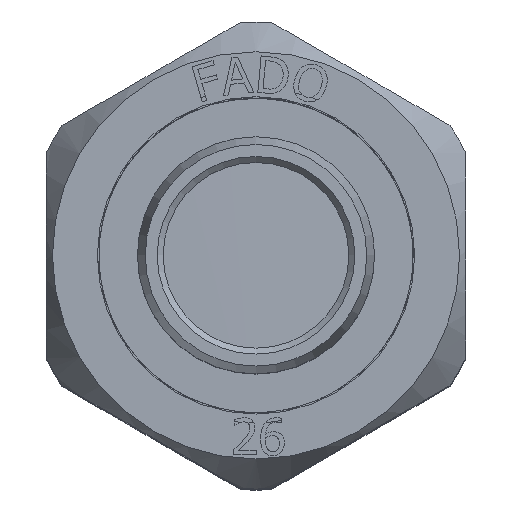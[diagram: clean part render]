
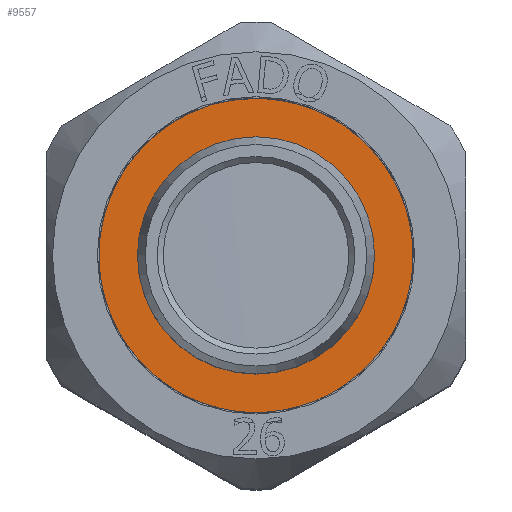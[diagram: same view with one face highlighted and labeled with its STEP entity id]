
A CAD part, top view. The second image highlights one B-rep face of the part: STEP entity #9557.
In plain terms, the highlighted planar face has unit normal (0, 0, 1) as drawn and (0, 0, -1) by its records, which use the part's own axes.
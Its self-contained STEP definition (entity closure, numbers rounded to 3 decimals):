
#1029=FACE_BOUND('',#3184,.T.);
#1132=PLANE('',#10241);
#2609=FACE_OUTER_BOUND('',#3183,.T.);
#3183=EDGE_LOOP('',(#7537,#7538));
#3184=EDGE_LOOP('',(#7539,#7540));
#3639=CIRCLE('',#10239,9.9);
#3640=CIRCLE('',#10240,9.9);
#3641=CIRCLE('',#10242,13.25);
#3642=CIRCLE('',#10243,13.25);
#4235=VERTEX_POINT('',#31008);
#4236=VERTEX_POINT('',#31009);
#4237=VERTEX_POINT('',#31014);
#4238=VERTEX_POINT('',#31015);
#5437=EDGE_CURVE('',#4235,#4236,#3639,.T.);
#5438=EDGE_CURVE('',#4236,#4235,#3640,.T.);
#5440=EDGE_CURVE('',#4237,#4238,#3641,.T.);
#5441=EDGE_CURVE('',#4238,#4237,#3642,.T.);
#7537=ORIENTED_EDGE('',*,*,#5440,.F.);
#7538=ORIENTED_EDGE('',*,*,#5441,.F.);
#7539=ORIENTED_EDGE('',*,*,#5437,.T.);
#7540=ORIENTED_EDGE('',*,*,#5438,.T.);
#9557=ADVANCED_FACE('',(#2609,#1029),#1132,.T.);
#10239=AXIS2_PLACEMENT_3D('',#31010,#11312,#11313);
#10240=AXIS2_PLACEMENT_3D('',#31011,#11314,#11315);
#10241=AXIS2_PLACEMENT_3D('',#31013,#11317,#11318);
#10242=AXIS2_PLACEMENT_3D('',#31016,#11319,#11320);
#10243=AXIS2_PLACEMENT_3D('',#31017,#11321,#11322);
#11312=DIRECTION('center_axis',(0.,0.,1.));
#11313=DIRECTION('ref_axis',(1.,0.,0.));
#11314=DIRECTION('center_axis',(0.,0.,1.));
#11315=DIRECTION('ref_axis',(1.,0.,0.));
#11317=DIRECTION('center_axis',(0.,0.,-1.));
#11318=DIRECTION('ref_axis',(-1.,0.,0.));
#11319=DIRECTION('center_axis',(0.,0.,1.));
#11320=DIRECTION('ref_axis',(1.,0.,0.));
#11321=DIRECTION('center_axis',(0.,0.,1.));
#11322=DIRECTION('ref_axis',(1.,0.,0.));
#31008=CARTESIAN_POINT('',(0.,-9.9,-10.087));
#31009=CARTESIAN_POINT('',(0.,9.9,-10.087));
#31010=CARTESIAN_POINT('Origin',(0.,0.,-10.087));
#31011=CARTESIAN_POINT('Origin',(0.,0.,-10.087));
#31013=CARTESIAN_POINT('Origin',(0.,-13.25,-10.087));
#31014=CARTESIAN_POINT('',(0.,-13.25,-10.087));
#31015=CARTESIAN_POINT('',(0.,13.25,-10.087));
#31016=CARTESIAN_POINT('Origin',(0.,0.,-10.087));
#31017=CARTESIAN_POINT('Origin',(0.,0.,-10.087));
